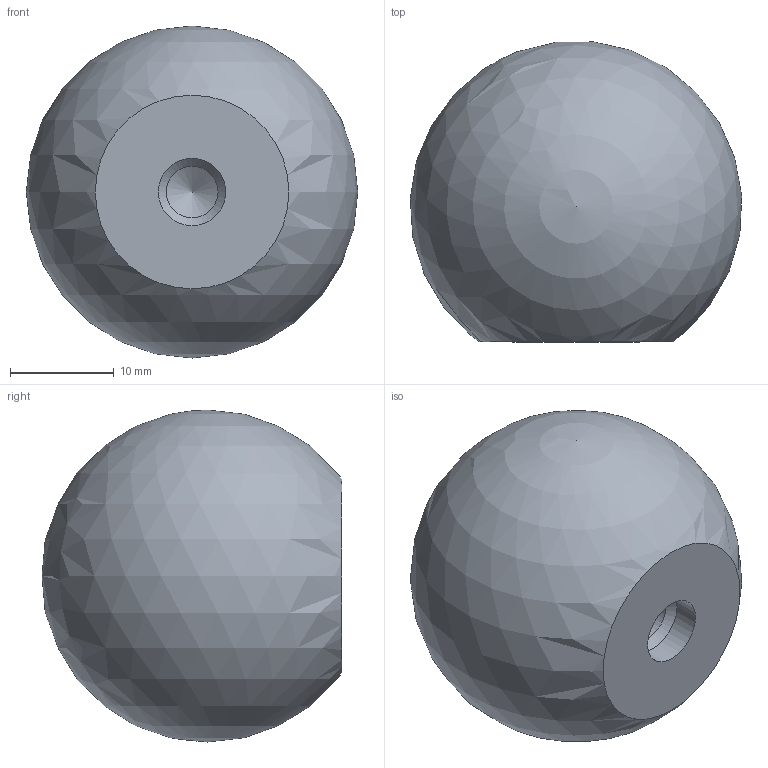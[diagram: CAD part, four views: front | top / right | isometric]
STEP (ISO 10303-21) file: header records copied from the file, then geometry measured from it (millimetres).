
FILE_DESCRIPTION (( 'STEP AP214' ), '1' );
FILE_NAME ('319-KU-32-M6-C.step', '2019-04-24T08:50:20', ( 'user' ), ( '' ), 'SwSTEP 2.0', 'SolidWorks 2019', '' );
FILE_SCHEMA (( 'AUTOMOTIVE_DESIGN' ));
Length unit declared in the file: millimetre
Products named in the file (1): 319-KU-32-M6-C
Bounding box: 31.94 x 28.91 x 32 mm (x, y, z)
Volume: 16390.1 mm3; surface area: 3433.2 mm2
Topology: 1 solids, 1 shells, 6 faces, 15 edges, 10 vertices
Faces by surface type: cone 2, cylinder 2, plane 1, sphere 1
Full cylindrical faces by diameter (mm): 5 x1, 6.5 x1
Entity records: 159 total; most frequent: DIRECTION 24, CARTESIAN_POINT 17, AXIS2_PLACEMENT_3D 12, ORIENTED_EDGE 10, EDGE_LOOP 10, FACE_OUTER_BOUND 8, ADVANCED_FACE 6, VERTEX_POINT 5
